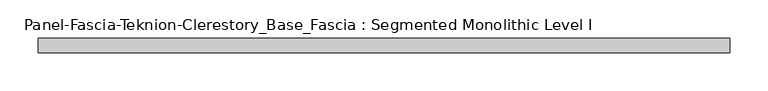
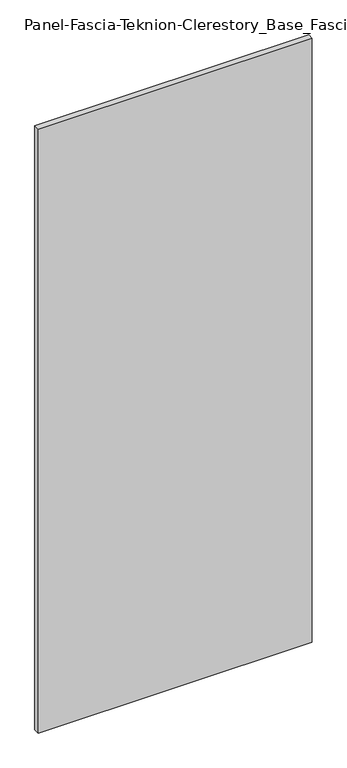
"""IFC4 building model written with IfcOpenShell, lengths in millimetres: proxy geometry, Panel-Fascia-Teknion-Clerestory_Base_Fascia : Segmented Monolithic Level I."""

from ifc_helpers import new_model, si_unit, frame, origin, place, context, project, spatial, polyline, outline, extrude, source, transform, mapped, element, save


def panel_fascia_teknion_clerestory_base_fascia_segmented_676c6a3b(model_context):
    return source(origin(), model_context, "Body", "SweptSolid", [
        extrude(outline(polyline([(454.6147563, -9.525), (-454.6147562, -9.525), (-454.6147562, 9.525), (454.6147563, 9.525), (454.6147563, -9.525)])), frame((0.0, 0.0, 3.175), z_axis=(0.0, 0.0, 1.0), x_axis=(1.0, 0.0, 0.0)), (0.0, 0.0, 1.0), 2117.725),
    ])


if __name__ == "__main__":
    model = new_model("IFC4")
    model_context = context("Model", 3, world=origin())
    ifc_project = project(units=[si_unit("LENGTHUNIT", "METRE", prefix="MILLI")], contexts=[model_context])
    site = spatial("IfcSite", under=ifc_project)
    building = spatial("IfcBuilding", under=site)
    placement = place(None, origin())
    panel_fascia_teknion_clerestory_base_fascia_segmented_shape = panel_fascia_teknion_clerestory_base_fascia_segmented_676c6a3b(model_context)
    element("IfcBuildingElementProxy", 1, Name="Panel-Fascia-Teknion-Clerestory_Base_Fascia : Segmented Monolithic Level I", ObjectType="Panel-Fascia-Teknion-Clerestory_Base_Fascia : Segmented Monolithic Level I", at=placement, inside=building, context=model_context, shape_type="MappedRepresentation", body=[
        mapped(panel_fascia_teknion_clerestory_base_fascia_segmented_shape, transform((0.0, 0.0, 0.0), x_axis=(1.0, 0.0, 0.0), y_axis=(0.0, 1.0, 0.0), z_axis=(0.0, 0.0, 1.0))),
    ])
    save(model, "model.ifc")
